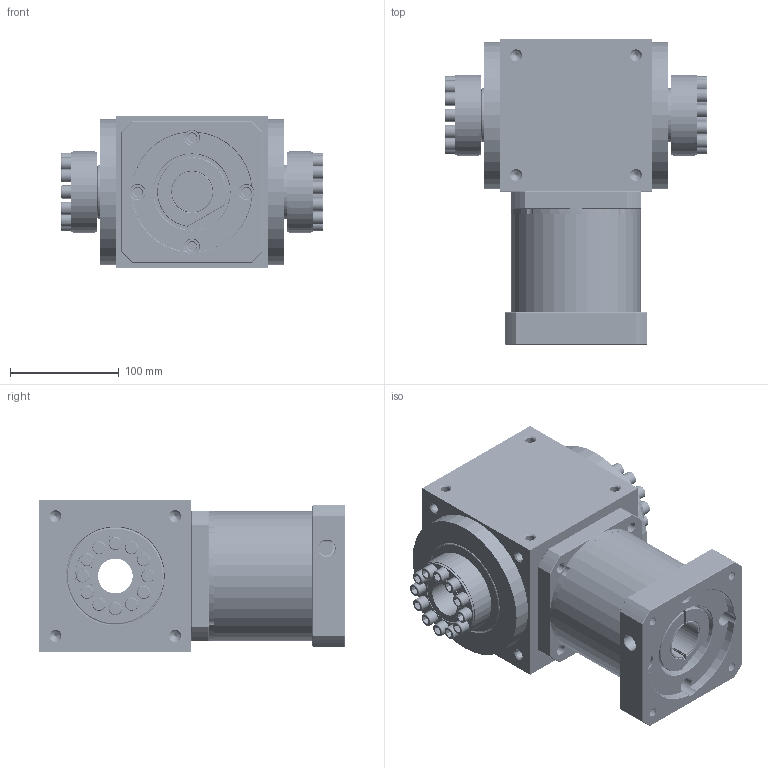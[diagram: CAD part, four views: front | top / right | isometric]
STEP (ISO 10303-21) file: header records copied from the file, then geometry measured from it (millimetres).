
FILE_DESCRIPTION (( 'STEP AP203' ), '1' );
FILE_NAME ('LAT140-LAB115-C-ZJ2-45-75.STEP', '2025-01-15T06:58:03', ( '微软用户' ), ( '微软中国' ), 'SwSTEP 2.0', 'SolidWorks 2022', '' );
FILE_SCHEMA (( 'CONFIG_CONTROL_DESIGN' ));
Length unit declared in the file: millimetre
Products named in the file (1): LAT140-LAB115-C-ZJ2-45-75
Bounding box: 241 x 281 x 140 mm (x, y, z)
Volume: 4140163.9 mm3; surface area: 606365.6 mm2
Topology: 43 solids, 43 shells, 2792 faces, 7132 edges, 4485 vertices
Faces by surface type: cylinder 1108, plane 661, bspline 519, cone 437, torus 67
Entity records: 174553 total; most frequent: CARTESIAN_POINT 113501, ORIENTED_EDGE 14184, DIRECTION 10897, EDGE_CURVE 7092, VERTEX_POINT 4485, AXIS2_PLACEMENT_3D 4429, EDGE_LOOP 3099, FACE_OUTER_BOUND 2792
